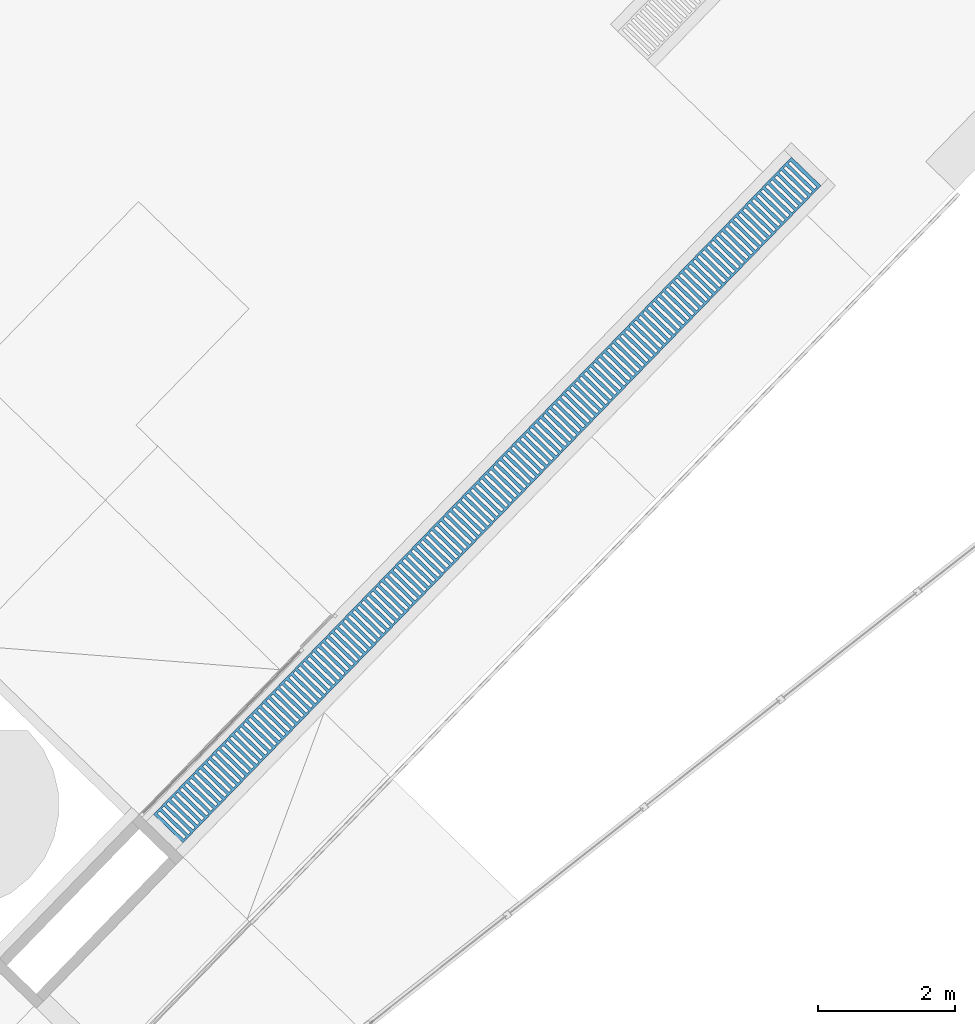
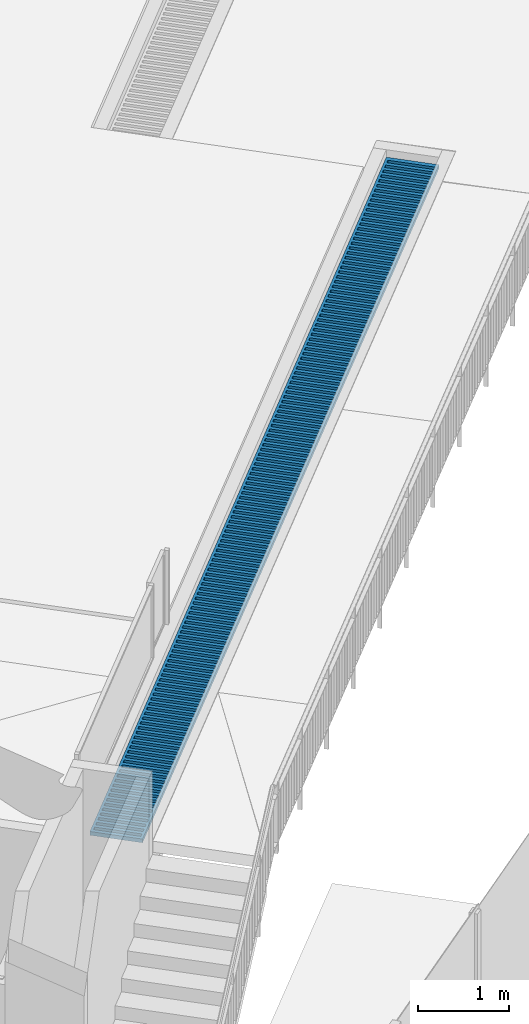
# One storey, part 12 of 37: 1 slab.
"""IFC2X3 building model written with IfcOpenShell, lengths in centimetres."""

from ifc_helpers import new_model, entity, si_unit, converted_unit, derived_unit, direction, frame, origin, place, context, subcontext, project, spatial, polyline, outline, extrude, material, element, save


model = new_model("IFC2X3")

# Units and contexts
model_context = context("Model", 3, precision=0.001, world=origin(), true_north=direction((0.717475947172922, 0.696583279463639)))
body_context = subcontext(model_context, "Body", "Model", "MODEL_VIEW")
ifc_project = project(units=[si_unit("LENGTHUNIT", "METRE", prefix="CENTI"), si_unit("AREAUNIT", "SQUARE_METRE"), si_unit("VOLUMEUNIT", "CUBIC_METRE"), converted_unit("PLANEANGLEUNIT", "DEGREE", entity("IfcRatioMeasure", 0.0174532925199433), si_unit("PLANEANGLEUNIT", "RADIAN"), dimensions=[0, 0, 0, 0, 0, 0, 0]), si_unit("MASSUNIT", "GRAM", prefix="KILO"), derived_unit("MASSDENSITYUNIT", [(si_unit("MASSUNIT", "GRAM", prefix="KILO"), 1), (si_unit("LENGTHUNIT", "METRE"), -3)]), si_unit("TIMEUNIT", "SECOND"), si_unit("FREQUENCYUNIT", "HERTZ"), si_unit("THERMODYNAMICTEMPERATUREUNIT", "DEGREE_CELSIUS"), derived_unit("THERMALTRANSMITTANCEUNIT", [(si_unit("MASSUNIT", "GRAM", prefix="KILO"), 1), (si_unit("THERMODYNAMICTEMPERATUREUNIT", "KELVIN"), -1), (si_unit("TIMEUNIT", "SECOND"), -3)]), derived_unit("VOLUMETRICFLOWRATEUNIT", [(si_unit("LENGTHUNIT", "METRE"), 3), (si_unit("TIMEUNIT", "SECOND"), -1)]), si_unit("ELECTRICCURRENTUNIT", "AMPERE"), si_unit("ELECTRICVOLTAGEUNIT", "VOLT"), si_unit("POWERUNIT", "WATT"), si_unit("FORCEUNIT", "NEWTON", prefix="KILO"), si_unit("ILLUMINANCEUNIT", "LUX"), si_unit("LUMINOUSFLUXUNIT", "LUMEN"), si_unit("LUMINOUSINTENSITYUNIT", "CANDELA"), derived_unit("USERDEFINED", [(si_unit("MASSUNIT", "GRAM", prefix="KILO"), -1), (si_unit("LENGTHUNIT", "METRE"), -2), (si_unit("TIMEUNIT", "SECOND"), 3), (si_unit("LUMINOUSFLUXUNIT", "LUMEN"), 1)]), derived_unit("LINEARVELOCITYUNIT", [(si_unit("LENGTHUNIT", "METRE"), 1), (si_unit("TIMEUNIT", "SECOND"), -1)]), si_unit("PRESSUREUNIT", "PASCAL"), derived_unit("USERDEFINED", [(si_unit("LENGTHUNIT", "METRE"), -2), (si_unit("MASSUNIT", "GRAM", prefix="KILO"), 1), (si_unit("TIMEUNIT", "SECOND"), -2)])], contexts=[model_context])

# Site, building, storey
site_placement = place(None, frame((0.0, 0.0, 0.0), z_axis=(0.0, 0.0, 1.0), x_axis=(0.696583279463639, 0.717475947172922, 0.0)))
site = spatial("IfcSite", under=ifc_project, at=site_placement, Name="Surface", CompositionType="ELEMENT")
building_placement = place(site_placement, origin())
building = spatial("IfcBuilding", under=site, at=building_placement, CompositionType="ELEMENT")
storey_placement = place(building_placement, origin())
storey = spatial("IfcBuildingStorey", under=building, at=storey_placement, Name="Nivel 0.00", CompositionType="ELEMENT", Elevation=0.0)

# Slab
ifc_material = material(Name="Stainless Steel")
slab_placement = place(storey_placement, origin())
element("IfcSlab", 1, at=slab_placement, inside=storey, material=ifc_material, Name="REGUERA_METÁLICA4:REGUERA_METÁLICA-04", ObjectType="REGUERA_METÁLICA4:REGUERA_METÁLICA-04", PredefinedType="FLOOR", context=body_context, shape_type="SweptSolid", body=[
    extrude(outline(polyline([(-669.471524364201, -29.9950213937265), (669.471524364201, -29.9950213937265), (669.471524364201, 29.9950213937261), (-669.471524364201, 29.9950213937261), (-669.471524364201, -29.9950213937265)]), holes=[polyline([(-421.140975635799, -26.9925406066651), (-425.903475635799, -26.9925406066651), (-425.903475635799, 27.0035162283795), (-421.140975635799, 27.0035162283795), (-421.140975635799, -26.9925406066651)]), polyline([(-430.665975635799, -26.9925406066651), (-435.428475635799, -26.9925406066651), (-435.428475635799, 27.0035162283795), (-430.665975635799, 27.0035162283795), (-430.665975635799, -26.9925406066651)]), polyline([(-440.190975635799, -26.9925406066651), (-444.953475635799, -26.9925406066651), (-444.953475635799, 27.0035162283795), (-440.190975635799, 27.0035162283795), (-440.190975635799, -26.9925406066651)]), polyline([(-449.715975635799, -26.9925406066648), (-454.478475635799, -26.9925406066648), (-454.478475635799, 27.0035162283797), (-449.715975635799, 27.0035162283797), (-449.715975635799, -26.9925406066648)]), polyline([(-459.240975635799, -26.9925406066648), (-464.003475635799, -26.9925406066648), (-464.003475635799, 27.0035162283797), (-459.240975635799, 27.0035162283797), (-459.240975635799, -26.9925406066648)]), polyline([(-468.765975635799, -26.9925406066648), (-473.528475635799, -26.9925406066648), (-473.528475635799, 27.0035162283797), (-468.765975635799, 27.0035162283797), (-468.765975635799, -26.9925406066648)]), polyline([(-478.290975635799, -26.9925406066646), (-483.053475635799, -26.9925406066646), (-483.053475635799, 27.0035162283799), (-478.290975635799, 27.0035162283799), (-478.290975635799, -26.9925406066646)]), polyline([(-487.815975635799, -26.9925406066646), (-492.578475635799, -26.9925406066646), (-492.578475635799, 27.0035162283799), (-487.815975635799, 27.0035162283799), (-487.815975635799, -26.9925406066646)]), polyline([(-497.340975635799, -26.9925406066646), (-502.103475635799, -26.9925406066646), (-502.103475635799, 27.0035162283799), (-497.340975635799, 27.0035162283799), (-497.340975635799, -26.9925406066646)]), polyline([(-506.865975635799, -26.9925406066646), (-511.628475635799, -26.9925406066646), (-511.628475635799, 27.0035162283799), (-506.865975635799, 27.0035162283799), (-506.865975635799, -26.9925406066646)]), polyline([(-516.390975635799, -26.9925406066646), (-521.153475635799, -26.9925406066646), (-521.153475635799, 27.0035162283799), (-516.390975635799, 27.0035162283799), (-516.390975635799, -26.9925406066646)]), polyline([(-525.915975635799, -26.9925406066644), (-530.678475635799, -26.9925406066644), (-530.678475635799, 27.0035162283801), (-525.915975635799, 27.0035162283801), (-525.915975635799, -26.9925406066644)]), polyline([(-535.440975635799, -26.9925406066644), (-540.203475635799, -26.9925406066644), (-540.203475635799, 27.0035162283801), (-535.440975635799, 27.0035162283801), (-535.440975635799, -26.9925406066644)]), polyline([(-544.965975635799, -26.9925406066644), (-549.728475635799, -26.9925406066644), (-549.728475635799, 27.0035162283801), (-544.965975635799, 27.0035162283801), (-544.965975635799, -26.9925406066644)]), polyline([(-554.490975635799, -26.9925406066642), (-559.253475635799, -26.9925406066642), (-559.253475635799, 27.0035162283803), (-554.490975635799, 27.0035162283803), (-554.490975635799, -26.9925406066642)]), polyline([(-564.015975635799, -26.9925406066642), (-568.778475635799, -26.9925406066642), (-568.778475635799, 27.0035162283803), (-564.015975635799, 27.0035162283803), (-564.015975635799, -26.9925406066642)]), polyline([(-573.540975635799, -26.9925406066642), (-578.303475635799, -26.9925406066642), (-578.303475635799, 27.0035162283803), (-573.540975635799, 27.0035162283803), (-573.540975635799, -26.9925406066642)]), polyline([(-583.065975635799, -26.9925406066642), (-587.828475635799, -26.9925406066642), (-587.828475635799, 27.0035162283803), (-583.065975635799, 27.0035162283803), (-583.065975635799, -26.9925406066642)]), polyline([(-592.590975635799, -26.9925406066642), (-597.353475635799, -26.9925406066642), (-597.353475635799, 27.0035162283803), (-592.590975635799, 27.0035162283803), (-592.590975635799, -26.9925406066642)]), polyline([(-602.115975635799, -26.992540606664), (-606.878475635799, -26.992540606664), (-606.878475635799, 27.0035162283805), (-602.115975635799, 27.0035162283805), (-602.115975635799, -26.992540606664)]), polyline([(-611.640975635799, -26.992540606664), (-616.403475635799, -26.992540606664), (-616.403475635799, 27.0035162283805), (-611.640975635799, 27.0035162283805), (-611.640975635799, -26.992540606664)]), polyline([(-621.165975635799, -26.992540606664), (-625.928475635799, -26.992540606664), (-625.928475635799, 27.0035162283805), (-621.165975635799, 27.0035162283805), (-621.165975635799, -26.992540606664)]), polyline([(-630.690975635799, -26.9925406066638), (-635.453475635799, -26.9925406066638), (-635.453475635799, 27.0035162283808), (-630.690975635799, 27.0035162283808), (-630.690975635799, -26.9925406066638)]), polyline([(-640.215975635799, -26.9925406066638), (-644.978475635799, -26.9925406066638), (-644.978475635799, 27.0035162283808), (-640.215975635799, 27.0035162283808), (-640.215975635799, -26.9925406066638)]), polyline([(-649.740975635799, -26.9925406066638), (-654.503475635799, -26.9925406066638), (-654.503475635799, 27.0035162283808), (-649.740975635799, 27.0035162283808), (-649.740975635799, -26.9925406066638)]), polyline([(-659.265975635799, -26.9925406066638), (-664.028475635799, -26.9925406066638), (-664.028475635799, 27.0035162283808), (-659.265975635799, 27.0035162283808), (-659.265975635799, -26.9925406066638)]), polyline([(-183.015975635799, -26.9925406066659), (-187.778475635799, -26.9925406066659), (-187.778475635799, 27.0035162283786), (-183.015975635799, 27.0035162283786), (-183.015975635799, -26.9925406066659)]), polyline([(-192.540975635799, -26.9925406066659), (-197.303475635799, -26.9925406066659), (-197.303475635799, 27.0035162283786), (-192.540975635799, 27.0035162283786), (-192.540975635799, -26.9925406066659)]), polyline([(-202.065975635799, -26.9925406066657), (-206.828475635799, -26.9925406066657), (-206.828475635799, 27.0035162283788), (-202.065975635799, 27.0035162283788), (-202.065975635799, -26.9925406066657)]), polyline([(-211.590975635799, -26.9925406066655), (-216.353475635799, -26.9925406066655), (-216.353475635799, 27.003516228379), (-211.590975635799, 27.003516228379), (-211.590975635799, -26.9925406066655)]), polyline([(-221.115975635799, -26.9925406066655), (-225.878475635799, -26.9925406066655), (-225.878475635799, 27.003516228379), (-221.115975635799, 27.003516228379), (-221.115975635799, -26.9925406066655)]), polyline([(-230.640975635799, -26.9925406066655), (-235.403475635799, -26.9925406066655), (-235.403475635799, 27.003516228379), (-230.640975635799, 27.003516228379), (-230.640975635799, -26.9925406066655)]), polyline([(-240.165975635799, -26.9925406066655), (-244.928475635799, -26.9925406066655), (-244.928475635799, 27.003516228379), (-240.165975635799, 27.003516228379), (-240.165975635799, -26.9925406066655)]), polyline([(-249.690975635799, -26.9925406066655), (-254.453475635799, -26.9925406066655), (-254.453475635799, 27.003516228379), (-249.690975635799, 27.003516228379), (-249.690975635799, -26.9925406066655)]), polyline([(-259.215975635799, -26.9925406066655), (-263.978475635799, -26.9925406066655), (-263.978475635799, 27.003516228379), (-259.215975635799, 27.003516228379), (-259.215975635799, -26.9925406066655)]), polyline([(-268.740975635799, -26.9925406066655), (-273.503475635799, -26.9925406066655), (-273.503475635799, 27.003516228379), (-268.740975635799, 27.003516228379), (-268.740975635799, -26.9925406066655)]), polyline([(-278.265975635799, -26.9925406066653), (-283.028475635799, -26.9925406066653), (-283.028475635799, 27.0035162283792), (-278.265975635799, 27.0035162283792), (-278.265975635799, -26.9925406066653)]), polyline([(-287.790975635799, -26.9925406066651), (-292.553475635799, -26.9925406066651), (-292.553475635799, 27.0035162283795), (-287.790975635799, 27.0035162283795), (-287.790975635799, -26.9925406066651)]), polyline([(-297.315975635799, -26.9925406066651), (-302.078475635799, -26.9925406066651), (-302.078475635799, 27.0035162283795), (-297.315975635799, 27.0035162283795), (-297.315975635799, -26.9925406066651)]), polyline([(-306.840975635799, -26.9925406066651), (-311.603475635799, -26.9925406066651), (-311.603475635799, 27.0035162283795), (-306.840975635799, 27.0035162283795), (-306.840975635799, -26.9925406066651)]), polyline([(-316.365975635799, -26.9925406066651), (-321.128475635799, -26.9925406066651), (-321.128475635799, 27.0035162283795), (-316.365975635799, 27.0035162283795), (-316.365975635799, -26.9925406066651)]), polyline([(-325.890975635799, -26.9925406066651), (-330.653475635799, -26.9925406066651), (-330.653475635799, 27.0035162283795), (-325.890975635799, 27.0035162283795), (-325.890975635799, -26.9925406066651)]), polyline([(-335.415975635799, -26.9925406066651), (-340.178475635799, -26.9925406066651), (-340.178475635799, 27.0035162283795), (-335.415975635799, 27.0035162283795), (-335.415975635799, -26.9925406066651)]), polyline([(-344.940975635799, -26.9925406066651), (-349.703475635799, -26.9925406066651), (-349.703475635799, 27.0035162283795), (-344.940975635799, 27.0035162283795), (-344.940975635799, -26.9925406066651)]), polyline([(-354.465975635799, -26.9925406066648), (-359.228475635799, -26.9925406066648), (-359.228475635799, 27.0035162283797), (-354.465975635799, 27.0035162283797), (-354.465975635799, -26.9925406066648)]), polyline([(-363.990975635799, -26.9925406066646), (-368.753475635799, -26.9925406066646), (-368.753475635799, 27.0035162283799), (-363.990975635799, 27.0035162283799), (-363.990975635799, -26.9925406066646)]), polyline([(-373.515975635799, -26.9925406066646), (-378.278475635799, -26.9925406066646), (-378.278475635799, 27.0035162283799), (-373.515975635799, 27.0035162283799), (-373.515975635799, -26.9925406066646)]), polyline([(-383.040975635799, -26.9925406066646), (-387.803475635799, -26.9925406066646), (-387.803475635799, 27.0035162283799), (-383.040975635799, 27.0035162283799), (-383.040975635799, -26.9925406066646)]), polyline([(-392.565975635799, -26.9925406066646), (-397.328475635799, -26.9925406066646), (-397.328475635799, 27.0035162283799), (-392.565975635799, 27.0035162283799), (-392.565975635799, -26.9925406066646)]), polyline([(-402.090975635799, -26.9925406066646), (-406.853475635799, -26.9925406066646), (-406.853475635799, 27.0035162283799), (-402.090975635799, 27.0035162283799), (-402.090975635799, -26.9925406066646)]), polyline([(-411.615975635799, -26.9925406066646), (-416.378475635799, -26.9925406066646), (-416.378475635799, 27.0035162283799), (-411.615975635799, 27.0035162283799), (-411.615975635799, -26.9925406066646)]), polyline([(55.1090243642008, -26.9925406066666), (50.3465243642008, -26.9925406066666), (50.3465243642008, 27.0035162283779), (55.1090243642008, 27.0035162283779), (55.1090243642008, -26.9925406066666)]), polyline([(45.5840243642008, -26.9925406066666), (40.8215243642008, -26.9925406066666), (40.8215243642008, 27.0035162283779), (45.5840243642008, 27.0035162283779), (45.5840243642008, -26.9925406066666)]), polyline([(36.0590243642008, -26.9925406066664), (31.2965243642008, -26.9925406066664), (31.2965243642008, 27.0035162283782), (36.0590243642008, 27.0035162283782), (36.0590243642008, -26.9925406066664)]), polyline([(26.5340243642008, -26.9925406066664), (21.7715243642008, -26.9925406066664), (21.7715243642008, 27.0035162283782), (26.5340243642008, 27.0035162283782), (26.5340243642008, -26.9925406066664)]), polyline([(17.0090243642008, -26.9925406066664), (12.2465243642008, -26.9925406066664), (12.2465243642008, 27.0035162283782), (17.0090243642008, 27.0035162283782), (17.0090243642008, -26.9925406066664)]), polyline([(7.48402436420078, -26.9925406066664), (2.72152436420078, -26.9925406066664), (2.72152436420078, 27.0035162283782), (7.48402436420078, 27.0035162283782), (7.48402436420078, -26.9925406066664)]), polyline([(-2.04097563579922, -26.9925406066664), (-6.80347563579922, -26.9925406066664), (-6.80347563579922, 27.0035162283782), (-2.04097563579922, 27.0035162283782), (-2.04097563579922, -26.9925406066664)]), polyline([(-11.5659756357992, -26.9925406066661), (-16.3284756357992, -26.9925406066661), (-16.3284756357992, 27.0035162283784), (-11.5659756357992, 27.0035162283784), (-11.5659756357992, -26.9925406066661)]), polyline([(-21.0909756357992, -26.9925406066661), (-25.8534756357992, -26.9925406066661), (-25.8534756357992, 27.0035162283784), (-21.0909756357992, 27.0035162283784), (-21.0909756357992, -26.9925406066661)]), polyline([(-30.6159756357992, -26.9925406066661), (-35.3784756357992, -26.9925406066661), (-35.3784756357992, 27.0035162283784), (-30.6159756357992, 27.0035162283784), (-30.6159756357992, -26.9925406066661)]), polyline([(-40.1409756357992, -26.9925406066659), (-44.9034756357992, -26.9925406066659), (-44.9034756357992, 27.0035162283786), (-40.1409756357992, 27.0035162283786), (-40.1409756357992, -26.9925406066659)]), polyline([(-49.6659756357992, -26.9925406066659), (-54.4284756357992, -26.9925406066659), (-54.4284756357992, 27.0035162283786), (-49.6659756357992, 27.0035162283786), (-49.6659756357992, -26.9925406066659)]), polyline([(-59.1909756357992, -26.9925406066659), (-63.9534756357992, -26.9925406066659), (-63.9534756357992, 27.0035162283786), (-59.1909756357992, 27.0035162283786), (-59.1909756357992, -26.9925406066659)]), polyline([(-68.7159756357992, -26.9925406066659), (-73.4784756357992, -26.9925406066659), (-73.4784756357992, 27.0035162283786), (-68.7159756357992, 27.0035162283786), (-68.7159756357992, -26.9925406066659)]), polyline([(-78.2409756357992, -26.9925406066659), (-83.0034756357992, -26.9925406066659), (-83.0034756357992, 27.0035162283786), (-78.2409756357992, 27.0035162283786), (-78.2409756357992, -26.9925406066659)]), polyline([(-87.7659756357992, -26.9925406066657), (-92.5284756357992, -26.9925406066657), (-92.5284756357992, 27.0035162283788), (-87.7659756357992, 27.0035162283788), (-87.7659756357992, -26.9925406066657)]), polyline([(-97.2909756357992, -26.9925406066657), (-102.053475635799, -26.9925406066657), (-102.053475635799, 27.0035162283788), (-97.2909756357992, 27.0035162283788), (-97.2909756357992, -26.9925406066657)]), polyline([(-106.815975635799, -26.9925406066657), (-111.578475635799, -26.9925406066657), (-111.578475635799, 27.0035162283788), (-106.815975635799, 27.0035162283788), (-106.815975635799, -26.9925406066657)]), polyline([(-116.340975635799, -26.9925406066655), (-121.103475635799, -26.9925406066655), (-121.103475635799, 27.003516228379), (-116.340975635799, 27.003516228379), (-116.340975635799, -26.9925406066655)]), polyline([(-125.865975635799, -26.9925406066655), (-130.628475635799, -26.9925406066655), (-130.628475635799, 27.003516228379), (-125.865975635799, 27.003516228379), (-125.865975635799, -26.9925406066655)]), polyline([(-135.390975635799, -26.9925406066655), (-140.153475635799, -26.9925406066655), (-140.153475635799, 27.003516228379), (-135.390975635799, 27.003516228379), (-135.390975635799, -26.9925406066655)]), polyline([(-144.915975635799, -26.9925406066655), (-149.678475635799, -26.9925406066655), (-149.678475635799, 27.003516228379), (-144.915975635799, 27.003516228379), (-144.915975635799, -26.9925406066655)]), polyline([(-154.440975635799, -26.9925406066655), (-159.203475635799, -26.9925406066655), (-159.203475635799, 27.003516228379), (-154.440975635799, 27.003516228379), (-154.440975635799, -26.9925406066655)]), polyline([(-163.965975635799, -26.9925406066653), (-168.728475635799, -26.9925406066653), (-168.728475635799, 27.0035162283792), (-163.965975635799, 27.0035162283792), (-163.965975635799, -26.9925406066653)]), polyline([(-173.490975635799, -26.9925406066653), (-178.253475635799, -26.9925406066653), (-178.253475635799, 27.0035162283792), (-173.490975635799, 27.0035162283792), (-173.490975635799, -26.9925406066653)]), polyline([(293.234024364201, -26.9925406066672), (288.471524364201, -26.9925406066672), (288.471524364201, 27.0035162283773), (293.234024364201, 27.0035162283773), (293.234024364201, -26.9925406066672)]), polyline([(283.709024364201, -26.9925406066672), (278.946524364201, -26.9925406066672), (278.946524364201, 27.0035162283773), (283.709024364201, 27.0035162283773), (283.709024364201, -26.9925406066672)]), polyline([(274.184024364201, -26.9925406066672), (269.421524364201, -26.9925406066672), (269.421524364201, 27.0035162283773), (274.184024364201, 27.0035162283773), (274.184024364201, -26.9925406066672)]), polyline([(264.659024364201, -26.9925406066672), (259.896524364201, -26.9925406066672), (259.896524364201, 27.0035162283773), (264.659024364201, 27.0035162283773), (264.659024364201, -26.9925406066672)]), polyline([(255.134024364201, -26.9925406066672), (250.371524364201, -26.9925406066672), (250.371524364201, 27.0035162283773), (255.134024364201, 27.0035162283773), (255.134024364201, -26.9925406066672)]), polyline([(245.609024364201, -26.9925406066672), (240.846524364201, -26.9925406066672), (240.846524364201, 27.0035162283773), (245.609024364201, 27.0035162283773), (245.609024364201, -26.9925406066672)]), polyline([(236.084024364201, -26.992540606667), (231.321524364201, -26.992540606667), (231.321524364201, 27.0035162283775), (236.084024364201, 27.0035162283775), (236.084024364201, -26.992540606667)]), polyline([(226.559024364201, -26.9925406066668), (221.796524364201, -26.9925406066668), (221.796524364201, 27.0035162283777), (226.559024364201, 27.0035162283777), (226.559024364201, -26.9925406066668)]), polyline([(217.034024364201, -26.9925406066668), (212.271524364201, -26.9925406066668), (212.271524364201, 27.0035162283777), (217.034024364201, 27.0035162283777), (217.034024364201, -26.9925406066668)]), polyline([(207.509024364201, -26.9925406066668), (202.746524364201, -26.9925406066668), (202.746524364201, 27.0035162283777), (207.509024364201, 27.0035162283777), (207.509024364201, -26.9925406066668)]), polyline([(197.984024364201, -26.9925406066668), (193.221524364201, -26.9925406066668), (193.221524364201, 27.0035162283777), (197.984024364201, 27.0035162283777), (197.984024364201, -26.9925406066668)]), polyline([(188.459024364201, -26.9925406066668), (183.696524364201, -26.9925406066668), (183.696524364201, 27.0035162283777), (188.459024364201, 27.0035162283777), (188.459024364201, -26.9925406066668)]), polyline([(178.934024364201, -26.9925406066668), (174.171524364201, -26.9925406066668), (174.171524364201, 27.0035162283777), (178.934024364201, 27.0035162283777), (178.934024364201, -26.9925406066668)]), polyline([(169.409024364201, -26.9925406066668), (164.646524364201, -26.9925406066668), (164.646524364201, 27.0035162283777), (169.409024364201, 27.0035162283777), (169.409024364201, -26.9925406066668)]), polyline([(159.884024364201, -26.9925406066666), (155.121524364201, -26.9925406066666), (155.121524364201, 27.0035162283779), (159.884024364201, 27.0035162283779), (159.884024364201, -26.9925406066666)]), polyline([(150.359024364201, -26.9925406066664), (145.596524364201, -26.9925406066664), (145.596524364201, 27.0035162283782), (150.359024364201, 27.0035162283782), (150.359024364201, -26.9925406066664)]), polyline([(140.834024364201, -26.9925406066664), (136.071524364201, -26.9925406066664), (136.071524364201, 27.0035162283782), (140.834024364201, 27.0035162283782), (140.834024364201, -26.9925406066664)]), polyline([(131.309024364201, -26.9925406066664), (126.546524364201, -26.9925406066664), (126.546524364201, 27.0035162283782), (131.309024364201, 27.0035162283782), (131.309024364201, -26.9925406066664)]), polyline([(121.784024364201, -26.9925406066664), (117.021524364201, -26.9925406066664), (117.021524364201, 27.0035162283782), (121.784024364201, 27.0035162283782), (121.784024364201, -26.9925406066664)]), polyline([(112.259024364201, -26.9925406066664), (107.496524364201, -26.9925406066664), (107.496524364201, 27.0035162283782), (112.259024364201, 27.0035162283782), (112.259024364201, -26.9925406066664)]), polyline([(102.734024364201, -26.9925406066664), (97.9715243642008, -26.9925406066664), (97.9715243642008, 27.0035162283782), (102.734024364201, 27.0035162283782), (102.734024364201, -26.9925406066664)]), polyline([(93.2090243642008, -26.9925406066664), (88.4465243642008, -26.9925406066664), (88.4465243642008, 27.0035162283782), (93.2090243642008, 27.0035162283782), (93.2090243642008, -26.9925406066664)]), polyline([(83.6840243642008, -26.9925406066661), (78.9215243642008, -26.9925406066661), (78.9215243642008, 27.0035162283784), (83.6840243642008, 27.0035162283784), (83.6840243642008, -26.9925406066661)]), polyline([(74.1590243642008, -26.9925406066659), (69.3965243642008, -26.9925406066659), (69.3965243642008, 27.0035162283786), (74.1590243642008, 27.0035162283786), (74.1590243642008, -26.9925406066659)]), polyline([(64.6340243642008, -26.9925406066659), (59.8715243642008, -26.9925406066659), (59.8715243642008, 27.0035162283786), (64.6340243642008, 27.0035162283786), (64.6340243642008, -26.9925406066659)]), polyline([(531.359024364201, -26.9925406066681), (526.596524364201, -26.9925406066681), (526.596524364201, 27.0035162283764), (531.359024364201, 27.0035162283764), (531.359024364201, -26.9925406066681)]), polyline([(521.834024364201, -26.9925406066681), (517.071524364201, -26.9925406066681), (517.071524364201, 27.0035162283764), (521.834024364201, 27.0035162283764), (521.834024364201, -26.9925406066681)]), polyline([(512.309024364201, -26.9925406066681), (507.546524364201, -26.9925406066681), (507.546524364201, 27.0035162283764), (512.309024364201, 27.0035162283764), (512.309024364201, -26.9925406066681)]), polyline([(502.784024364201, -26.9925406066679), (498.021524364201, -26.9925406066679), (498.021524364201, 27.0035162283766), (502.784024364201, 27.0035162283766), (502.784024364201, -26.9925406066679)]), polyline([(493.259024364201, -26.9925406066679), (488.496524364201, -26.9925406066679), (488.496524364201, 27.0035162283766), (493.259024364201, 27.0035162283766), (493.259024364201, -26.9925406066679)]), polyline([(483.734024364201, -26.9925406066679), (478.971524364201, -26.9925406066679), (478.971524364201, 27.0035162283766), (483.734024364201, 27.0035162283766), (483.734024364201, -26.9925406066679)]), polyline([(474.209024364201, -26.9925406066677), (469.446524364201, -26.9925406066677), (469.446524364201, 27.0035162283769), (474.209024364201, 27.0035162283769), (474.209024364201, -26.9925406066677)]), polyline([(464.684024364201, -26.9925406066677), (459.921524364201, -26.9925406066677), (459.921524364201, 27.0035162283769), (464.684024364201, 27.0035162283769), (464.684024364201, -26.9925406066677)]), polyline([(455.159024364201, -26.9925406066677), (450.396524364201, -26.9925406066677), (450.396524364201, 27.0035162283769), (455.159024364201, 27.0035162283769), (455.159024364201, -26.9925406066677)]), polyline([(445.634024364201, -26.9925406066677), (440.871524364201, -26.9925406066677), (440.871524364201, 27.0035162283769), (445.634024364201, 27.0035162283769), (445.634024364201, -26.9925406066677)]), polyline([(436.109024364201, -26.9925406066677), (431.346524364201, -26.9925406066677), (431.346524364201, 27.0035162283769), (436.109024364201, 27.0035162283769), (436.109024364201, -26.9925406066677)]), polyline([(426.584024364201, -26.9925406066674), (421.821524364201, -26.9925406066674), (421.821524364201, 27.0035162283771), (426.584024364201, 27.0035162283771), (426.584024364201, -26.9925406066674)]), polyline([(417.059024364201, -26.9925406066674), (412.296524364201, -26.9925406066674), (412.296524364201, 27.0035162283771), (417.059024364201, 27.0035162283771), (417.059024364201, -26.9925406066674)]), polyline([(407.534024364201, -26.9925406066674), (402.771524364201, -26.9925406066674), (402.771524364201, 27.0035162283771), (407.534024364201, 27.0035162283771), (407.534024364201, -26.9925406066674)]), polyline([(398.009024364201, -26.9925406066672), (393.246524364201, -26.9925406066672), (393.246524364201, 27.0035162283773), (398.009024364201, 27.0035162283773), (398.009024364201, -26.9925406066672)]), polyline([(388.484024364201, -26.9925406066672), (383.721524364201, -26.9925406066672), (383.721524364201, 27.0035162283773), (388.484024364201, 27.0035162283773), (388.484024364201, -26.9925406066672)]), polyline([(378.959024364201, -26.9925406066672), (374.196524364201, -26.9925406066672), (374.196524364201, 27.0035162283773), (378.959024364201, 27.0035162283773), (378.959024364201, -26.9925406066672)]), polyline([(369.434024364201, -26.9925406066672), (364.671524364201, -26.9925406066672), (364.671524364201, 27.0035162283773), (369.434024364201, 27.0035162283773), (369.434024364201, -26.9925406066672)]), polyline([(359.909024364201, -26.9925406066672), (355.146524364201, -26.9925406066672), (355.146524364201, 27.0035162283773), (359.909024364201, 27.0035162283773), (359.909024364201, -26.9925406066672)]), polyline([(350.384024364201, -26.992540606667), (345.621524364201, -26.992540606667), (345.621524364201, 27.0035162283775), (350.384024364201, 27.0035162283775), (350.384024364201, -26.992540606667)]), polyline([(340.859024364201, -26.992540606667), (336.096524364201, -26.992540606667), (336.096524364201, 27.0035162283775), (340.859024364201, 27.0035162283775), (340.859024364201, -26.992540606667)]), polyline([(331.334024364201, -26.992540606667), (326.571524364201, -26.992540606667), (326.571524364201, 27.0035162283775), (331.334024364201, 27.0035162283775), (331.334024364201, -26.992540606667)]), polyline([(321.809024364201, -26.9925406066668), (317.046524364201, -26.9925406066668), (317.046524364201, 27.0035162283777), (321.809024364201, 27.0035162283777), (321.809024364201, -26.9925406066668)]), polyline([(312.284024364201, -26.9925406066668), (307.521524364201, -26.9925406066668), (307.521524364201, 27.0035162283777), (312.284024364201, 27.0035162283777), (312.284024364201, -26.9925406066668)]), polyline([(302.759024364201, -26.9925406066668), (297.996524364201, -26.9925406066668), (297.996524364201, 27.0035162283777), (302.759024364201, 27.0035162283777), (302.759024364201, -26.9925406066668)]), polyline([(664.709024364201, -26.9925406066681), (659.946524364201, -26.9925406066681), (659.946524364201, 27.0035162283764), (664.709024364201, 27.0035162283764), (664.709024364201, -26.9925406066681)]), polyline([(655.184024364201, -26.9925406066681), (650.421524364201, -26.9925406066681), (650.421524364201, 27.0035162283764), (655.184024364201, 27.0035162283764), (655.184024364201, -26.9925406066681)]), polyline([(645.659024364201, -26.9925406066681), (640.896524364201, -26.9925406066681), (640.896524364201, 27.0035162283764), (645.659024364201, 27.0035162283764), (645.659024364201, -26.9925406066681)]), polyline([(636.134024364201, -26.9925406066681), (631.371524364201, -26.9925406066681), (631.371524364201, 27.0035162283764), (636.134024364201, 27.0035162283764), (636.134024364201, -26.9925406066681)]), polyline([(626.609024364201, -26.9925406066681), (621.846524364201, -26.9925406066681), (621.846524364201, 27.0035162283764), (626.609024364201, 27.0035162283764), (626.609024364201, -26.9925406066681)]), polyline([(617.084024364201, -26.9925406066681), (612.321524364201, -26.9925406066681), (612.321524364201, 27.0035162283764), (617.084024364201, 27.0035162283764), (617.084024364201, -26.9925406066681)]), polyline([(607.559024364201, -26.9925406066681), (602.796524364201, -26.9925406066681), (602.796524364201, 27.0035162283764), (607.559024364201, 27.0035162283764), (607.559024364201, -26.9925406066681)]), polyline([(598.034024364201, -26.9925406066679), (593.271524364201, -26.9925406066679), (593.271524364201, 27.0035162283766), (598.034024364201, 27.0035162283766), (598.034024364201, -26.9925406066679)]), polyline([(588.509024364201, -26.9925406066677), (583.746524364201, -26.9925406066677), (583.746524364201, 27.0035162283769), (588.509024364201, 27.0035162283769), (588.509024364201, -26.9925406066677)]), polyline([(578.984024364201, -26.9925406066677), (574.221524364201, -26.9925406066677), (574.221524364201, 27.0035162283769), (578.984024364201, 27.0035162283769), (578.984024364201, -26.9925406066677)]), polyline([(569.459024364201, -26.9925406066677), (564.696524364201, -26.9925406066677), (564.696524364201, 27.0035162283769), (569.459024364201, 27.0035162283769), (569.459024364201, -26.9925406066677)]), polyline([(559.934024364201, -26.9925406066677), (555.171524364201, -26.9925406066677), (555.171524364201, 27.0035162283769), (559.934024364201, 27.0035162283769), (559.934024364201, -26.9925406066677)]), polyline([(550.409024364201, -26.9925406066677), (545.646524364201, -26.9925406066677), (545.646524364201, 27.0035162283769), (550.409024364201, 27.0035162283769), (550.409024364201, -26.9925406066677)]), polyline([(540.884024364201, -26.9925406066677), (536.121524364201, -26.9925406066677), (536.121524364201, 27.0035162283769), (540.884024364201, 27.0035162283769), (540.884024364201, -26.9925406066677)])]), frame((-1221.44481543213, -1390.04987864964, 135.0), z_axis=(0.0, 0.0, 1.0), x_axis=(-1.0, 0.0, 0.0)), (0.0, 0.0, 1.0), 5.0),
])

save(model, "model.ifc")
